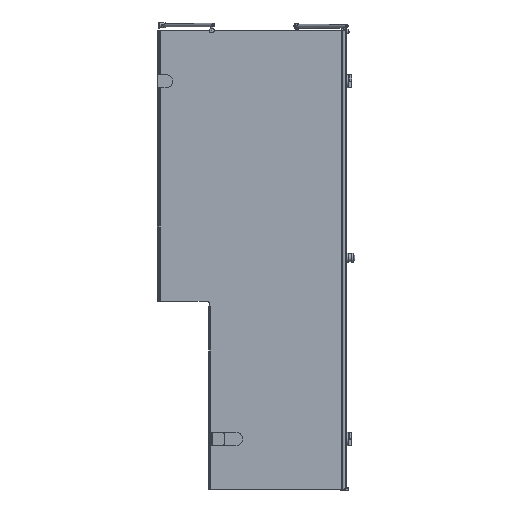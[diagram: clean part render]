
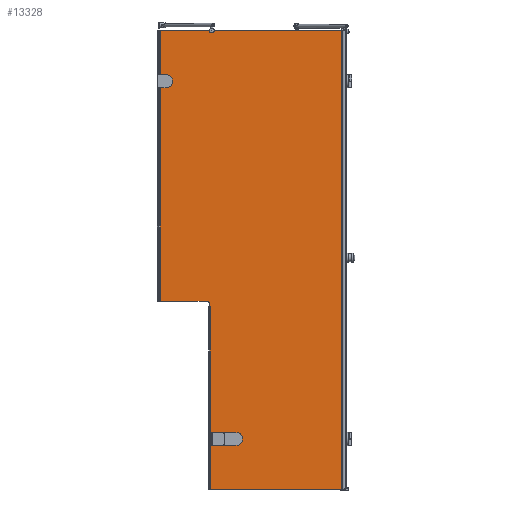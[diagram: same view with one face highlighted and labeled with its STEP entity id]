
A CAD part, front view. The second image highlights one B-rep face of the part: STEP entity #13328.
In plain terms, the highlighted planar face has unit normal (0, -1, 0).
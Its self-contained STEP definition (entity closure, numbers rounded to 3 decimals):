
#98=LINE($,#18601,#1377);
#115=LINE($,#18668,#1394);
#377=LINE($,#19595,#1656);
#382=LINE($,#19609,#1661);
#385=LINE($,#19614,#1664);
#485=LINE($,#20145,#1764);
#488=LINE($,#20151,#1767);
#492=LINE($,#20161,#1771);
#541=LINE($,#20291,#1820);
#1182=LINE($,#22113,#2461);
#1227=LINE($,#22365,#2506);
#1229=LINE($,#22370,#2508);
#1238=LINE($,#22398,#2517);
#1239=LINE($,#22402,#2518);
#1240=LINE($,#22403,#2519);
#1241=LINE($,#22405,#2520);
#1242=LINE($,#22407,#2521);
#1243=LINE($,#22408,#2522);
#1244=LINE($,#22409,#2523);
#1377=VECTOR($,#14758,529.796);
#1394=VECTOR($,#14811,203.204);
#1656=VECTOR($,#15491,15.);
#1661=VECTOR($,#15504,15.);
#1664=VECTOR($,#15509,52.);
#1764=VECTOR($,#15875,52.);
#1767=VECTOR($,#15880,23.);
#1771=VECTOR($,#15892,23.);
#1820=VECTOR($,#16023,1120.);
#2461=VECTOR($,#17626,3.581);
#2506=VECTOR($,#17801,2.443);
#2508=VECTOR($,#17805,540.419);
#2517=VECTOR($,#17826,194.);
#2518=VECTOR($,#17829,15.);
#2519=VECTOR($,#17830,757.);
#2520=VECTOR($,#17831,757.);
#2521=VECTOR($,#17832,2.557);
#2522=VECTOR($,#17833,757.);
#2523=VECTOR($,#17834,1898.);
#2981=FACE_BOUND($,#4444,.T.);
#2982=FACE_BOUND($,#4445,.T.);
#3633=FACE_OUTER_BOUND($,#4443,.T.);
#4443=EDGE_LOOP($,(#10965,#10966,#10967,#10968,#10969,#10970,#10971,#10972,
#10973,#10974,#10975,#10976,#10977,#10978,#10979,#10980));
#4444=EDGE_LOOP($,(#10981,#10982,#10983,#10984));
#4445=EDGE_LOOP($,(#10985,#10986,#10987,#10988));
#4565=CIRCLE($,#13463,10.);
#4680=CIRCLE($,#13721,26.);
#4744=CIRCLE($,#13861,26.);
#4894=CIRCLE($,#14390,2.);
#4929=CIRCLE($,#14457,8.);
#5000=VERTEX_POINT($,#18346);
#5002=VERTEX_POINT($,#18350);
#5042=VERTEX_POINT($,#18600);
#5074=VERTEX_POINT($,#18666);
#5333=VERTEX_POINT($,#19593);
#5334=VERTEX_POINT($,#19594);
#5337=VERTEX_POINT($,#19602);
#5339=VERTEX_POINT($,#19608);
#5457=VERTEX_POINT($,#20142);
#5458=VERTEX_POINT($,#20144);
#5460=VERTEX_POINT($,#20150);
#5462=VERTEX_POINT($,#20156);
#5502=VERTEX_POINT($,#20290);
#5972=VERTEX_POINT($,#22111);
#5973=VERTEX_POINT($,#22112);
#5986=VERTEX_POINT($,#22153);
#6015=VERTEX_POINT($,#22363);
#6016=VERTEX_POINT($,#22364);
#6018=VERTEX_POINT($,#22369);
#6031=VERTEX_POINT($,#22397);
#6032=VERTEX_POINT($,#22399);
#6033=VERTEX_POINT($,#22401);
#6034=VERTEX_POINT($,#22404);
#6035=VERTEX_POINT($,#22406);
#6144=EDGE_CURVE($,#5000,#5002,#4565,.T.);
#6191=EDGE_CURVE($,#5042,#5000,#98,.T.);
#6225=EDGE_CURVE($,#5002,#5074,#115,.T.);
#6581=EDGE_CURVE($,#5333,#5334,#377,.T.);
#6585=EDGE_CURVE($,#5334,#5337,#4680,.T.);
#6588=EDGE_CURVE($,#5337,#5339,#382,.T.);
#6591=EDGE_CURVE($,#5339,#5333,#385,.T.);
#6758=EDGE_CURVE($,#5458,#5457,#485,.T.);
#6761=EDGE_CURVE($,#5460,#5458,#488,.T.);
#6764=EDGE_CURVE($,#5462,#5460,#4744,.T.);
#6767=EDGE_CURVE($,#5457,#5462,#492,.T.);
#6829=EDGE_CURVE($,#5074,#5502,#541,.T.);
#7637=EDGE_CURVE($,#5972,#5973,#1182,.T.);
#7653=EDGE_CURVE($,#5986,#5972,#4894,.T.);
#7720=EDGE_CURVE($,#6015,#6016,#1227,.T.);
#7723=EDGE_CURVE($,#5986,#6018,#1229,.T.);
#7737=EDGE_CURVE($,#5502,#6031,#1238,.T.);
#7738=EDGE_CURVE($,#6032,#6031,#4929,.T.);
#7739=EDGE_CURVE($,#6032,#6033,#1239,.T.);
#7740=EDGE_CURVE($,#6033,#6016,#1240,.T.);
#7741=EDGE_CURVE($,#6015,#6034,#1241,.T.);
#7742=EDGE_CURVE($,#6034,#6035,#1242,.T.);
#7743=EDGE_CURVE($,#6035,#6018,#1243,.T.);
#7744=EDGE_CURVE($,#5042,#5973,#1244,.T.);
#10965=ORIENTED_EDGE($,*,*,#6144,.T.);
#10966=ORIENTED_EDGE($,*,*,#6225,.T.);
#10967=ORIENTED_EDGE($,*,*,#6829,.T.);
#10968=ORIENTED_EDGE($,*,*,#7737,.T.);
#10969=ORIENTED_EDGE($,*,*,#7738,.F.);
#10970=ORIENTED_EDGE($,*,*,#7739,.T.);
#10971=ORIENTED_EDGE($,*,*,#7740,.T.);
#10972=ORIENTED_EDGE($,*,*,#7720,.F.);
#10973=ORIENTED_EDGE($,*,*,#7741,.T.);
#10974=ORIENTED_EDGE($,*,*,#7742,.T.);
#10975=ORIENTED_EDGE($,*,*,#7743,.T.);
#10976=ORIENTED_EDGE($,*,*,#7723,.F.);
#10977=ORIENTED_EDGE($,*,*,#7653,.T.);
#10978=ORIENTED_EDGE($,*,*,#7637,.T.);
#10979=ORIENTED_EDGE($,*,*,#7744,.F.);
#10980=ORIENTED_EDGE($,*,*,#6191,.T.);
#10981=ORIENTED_EDGE($,*,*,#6581,.T.);
#10982=ORIENTED_EDGE($,*,*,#6585,.T.);
#10983=ORIENTED_EDGE($,*,*,#6588,.T.);
#10984=ORIENTED_EDGE($,*,*,#6591,.T.);
#10985=ORIENTED_EDGE($,*,*,#6758,.T.);
#10986=ORIENTED_EDGE($,*,*,#6767,.T.);
#10987=ORIENTED_EDGE($,*,*,#6764,.T.);
#10988=ORIENTED_EDGE($,*,*,#6761,.T.);
#11897=PLANE($,#14456);
#13328=ADVANCED_FACE($,(#3633,#2981,#2982),#11897,.T.);
#13463=AXIS2_PLACEMENT_3D($,#18352,#14675,#14676);
#13721=AXIS2_PLACEMENT_3D($,#19603,#15497,#15498);
#13861=AXIS2_PLACEMENT_3D($,#20157,#15886,#15887);
#14390=AXIS2_PLACEMENT_3D($,#22154,#17649,#17650);
#14456=AXIS2_PLACEMENT_3D($,#22396,#17824,#17825);
#14457=AXIS2_PLACEMENT_3D($,#22400,#17827,#17828);
#14675=DIRECTION('center_axis',(0.,1.,0.));
#14676=DIRECTION('ref_axis',(-0.597,0.,0.802));
#14758=DIRECTION($,(-1.,0.,0.));
#14811=DIRECTION($,(-1.,0.,0.));
#15491=DIRECTION($,(1.,0.,0.));
#15497=DIRECTION('center_axis',(0.,1.,0.));
#15498=DIRECTION('ref_axis',(0.,0.,
1.));
#15504=DIRECTION($,(-1.,0.,0.));
#15509=DIRECTION($,(0.,0.,1.));
#15875=DIRECTION($,(0.,0.,1.));
#15880=DIRECTION($,(-1.,0.,0.));
#15886=DIRECTION('center_axis',(0.,1.,0.));
#15887=DIRECTION('ref_axis',(0.,0.,
1.));
#15892=DIRECTION($,(1.,0.,0.));
#16023=DIRECTION($,(0.,0.,-1.));
#17626=DIRECTION($,(1.,0.,0.));
#17649=DIRECTION('center_axis',(0.,1.,0.));
#17650=DIRECTION('ref_axis',(-1.,0.,0.));
#17801=DIRECTION($,(-1.,0.,0.));
#17805=DIRECTION($,(-1.,0.,0.));
#17824=DIRECTION('center_axis',(0.,-1.,0.));
#17825=DIRECTION('ref_axis',(-1.,0.,0.));
#17826=DIRECTION($,(1.,0.,0.));
#17827=DIRECTION('center_axis',(0.,-1.,0.));
#17828=DIRECTION('ref_axis',(0.707,0.,0.707));
#17829=DIRECTION($,(0.,0.,-1.));
#17830=DIRECTION($,(0.,0.,-1.));
#17831=DIRECTION($,(0.,0.,1.));
#17832=DIRECTION($,(1.,0.,0.));
#17833=DIRECTION($,(0.,0.,-1.));
#17834=DIRECTION($,(0.,0.,-1.));
#18346=CARTESIAN_POINT('',(686.937,-44.044,1385.944));
#18350=CARTESIAN_POINT('',(666.937,-44.044,1385.944));
#18352=CARTESIAN_POINT('Origin',(676.937,-44.044,1385.944));
#18600=CARTESIAN_POINT('',(1216.733,-44.044,1385.944));
#18601=CARTESIAN_POINT($,(1216.733,-44.044,1385.944));
#18666=CARTESIAN_POINT('',(463.733,-44.044,1385.944));
#18668=CARTESIAN_POINT($,(1216.733,-44.044,1385.944));
#19593=CARTESIAN_POINT('',(472.733,-44.044,1201.944));
#19594=CARTESIAN_POINT('',(487.733,-44.044,1201.944));
#19595=CARTESIAN_POINT($,(852.233,-44.044,1201.944));
#19602=CARTESIAN_POINT('',(487.733,-44.044,1149.944));
#19603=CARTESIAN_POINT('Origin',(487.733,-44.044,1175.944));
#19608=CARTESIAN_POINT('',(472.733,-44.044,1149.944));
#19609=CARTESIAN_POINT($,(844.733,-44.044,1149.944));
#19614=CARTESIAN_POINT($,(472.733,-44.044,1293.944));
#20142=CARTESIAN_POINT('',(753.733,-44.044,-278.056));
#20144=CARTESIAN_POINT('',(753.733,-44.044,-330.056));
#20145=CARTESIAN_POINT($,(753.733,-44.044,527.944));
#20150=CARTESIAN_POINT('',(776.733,-44.044,-330.056));
#20151=CARTESIAN_POINT($,(996.733,-44.044,-330.056));
#20156=CARTESIAN_POINT('',(776.733,-44.044,-278.056));
#20157=CARTESIAN_POINT('Origin',(776.733,-44.044,-304.056));
#20161=CARTESIAN_POINT($,(985.233,-44.044,-278.056));
#20290=CARTESIAN_POINT('',(463.733,-44.044,265.944));
#20291=CARTESIAN_POINT($,(463.733,-44.044,1385.944));
#22111=CARTESIAN_POINT('',(1213.152,-44.044,-512.056));
#22112=CARTESIAN_POINT('',(1216.733,-44.044,-512.056));
#22113=CARTESIAN_POINT($,(1214.943,-44.044,-512.056));
#22153=CARTESIAN_POINT('',(1211.152,-44.044,-514.056));
#22154=CARTESIAN_POINT('Origin',(1213.152,-44.044,-514.056));
#22363=CARTESIAN_POINT('',(668.176,-44.044,-514.056));
#22364=CARTESIAN_POINT('',(665.733,-44.044,-514.056));
#22365=CARTESIAN_POINT($,(1216.733,-44.044,-514.056));
#22369=CARTESIAN_POINT('',(670.733,-44.044,-514.056));
#22370=CARTESIAN_POINT($,(1216.733,-44.044,-514.056));
#22396=CARTESIAN_POINT('Origin',(1216.733,-44.044,1385.944));
#22397=CARTESIAN_POINT('',(657.733,-44.044,265.944));
#22398=CARTESIAN_POINT($,(458.733,-44.044,265.944));
#22399=CARTESIAN_POINT('',(665.733,-44.044,257.944));
#22400=CARTESIAN_POINT('Origin',(657.733,-44.044,257.944));
#22401=CARTESIAN_POINT('',(665.733,-44.044,242.944));
#22402=CARTESIAN_POINT($,(665.733,-44.044,1385.944));
#22403=CARTESIAN_POINT($,(665.733,-44.044,1385.944));
#22404=CARTESIAN_POINT('',(668.176,-44.044,242.944));
#22405=CARTESIAN_POINT($,(668.176,-44.044,814.444));
#22406=CARTESIAN_POINT('',(670.733,-44.044,242.944));
#22407=CARTESIAN_POINT($,(940.833,-44.044,242.944));
#22408=CARTESIAN_POINT($,(670.733,-44.044,814.444));
#22409=CARTESIAN_POINT($,(1216.733,-44.044,1385.944));
